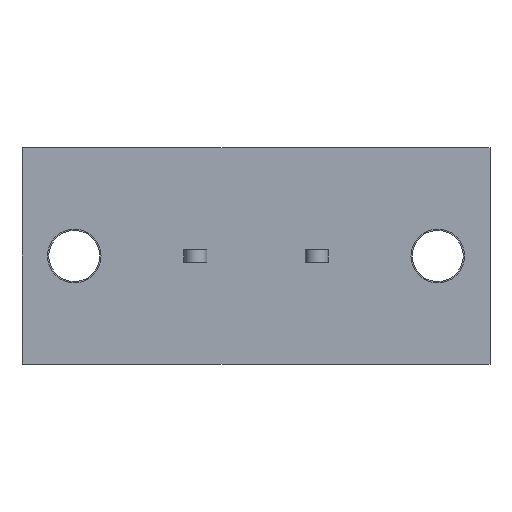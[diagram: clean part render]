
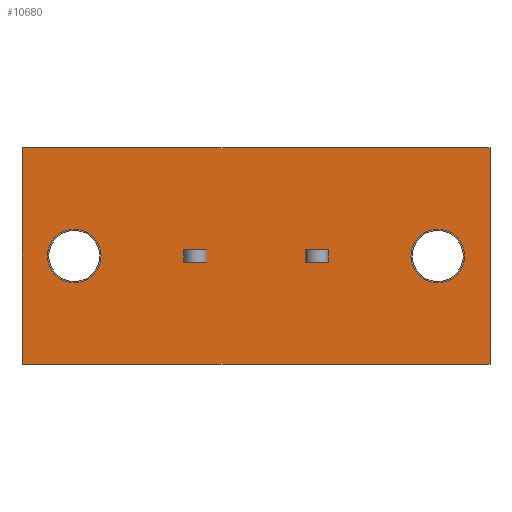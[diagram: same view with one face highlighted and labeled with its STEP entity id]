
A CAD part, front view. The second image highlights one B-rep face of the part: STEP entity #10680.
In plain terms, the highlighted planar face has unit normal (0, -1, 0).
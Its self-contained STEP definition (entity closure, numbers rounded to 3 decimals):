
#551=CIRCLE('',#11039,2.1);
#617=CIRCLE('',#11352,2.1);
#678=VERTEX_POINT('',#13727);
#679=VERTEX_POINT('',#13728);
#682=VERTEX_POINT('',#13736);
#694=VERTEX_POINT('',#13774);
#786=VERTEX_POINT('',#14044);
#1117=VERTEX_POINT('',#15516);
#1118=VERTEX_POINT('',#15518);
#1162=VERTEX_POINT('',#15706);
#1163=VERTEX_POINT('',#15707);
#1166=VERTEX_POINT('',#15715);
#1194=VERTEX_POINT('',#15786);
#1274=VERTEX_POINT('',#16081);
#1281=VERTEX_POINT('',#16097);
#1282=VERTEX_POINT('',#16099);
#1754=VECTOR('',#11618,1.);
#1757=VECTOR('',#11624,1.);
#1769=VECTOR('',#11660,1.);
#1771=VECTOR('',#11663,1.);
#2262=VECTOR('',#12394,1.);
#2299=VECTOR('',#12542,1.);
#2302=VECTOR('',#12548,1.);
#2328=VECTOR('',#12603,1.);
#2330=VECTOR('',#12606,1.);
#2407=VECTOR('',#12834,1.);
#2415=VECTOR('',#12845,1.);
#2416=VECTOR('',#12846,1.);
#2964=LINE('',#13726,#1754);
#2967=LINE('',#13735,#1757);
#2979=LINE('',#13773,#1769);
#2981=LINE('',#13777,#1771);
#3472=LINE('',#15517,#2262);
#3509=LINE('',#15705,#2299);
#3512=LINE('',#15714,#2302);
#3538=LINE('',#15785,#2328);
#3540=LINE('',#15789,#2330);
#3617=LINE('',#16080,#2407);
#3625=LINE('',#16098,#2415);
#3626=LINE('',#16100,#2416);
#4176=EDGE_CURVE('',#678,#679,#2964,.T.);
#4180=EDGE_CURVE('',#679,#682,#2967,.T.);
#4199=EDGE_CURVE('',#694,#678,#2979,.T.);
#4201=EDGE_CURVE('',#682,#694,#2981,.T.);
#4333=EDGE_CURVE('',#786,#786,#551,.T.);
#4827=EDGE_CURVE('',#1117,#1118,#3472,.T.);
#4901=EDGE_CURVE('',#1162,#1163,#3509,.T.);
#4905=EDGE_CURVE('',#1163,#1166,#3512,.T.);
#4940=EDGE_CURVE('',#1194,#1162,#3538,.T.);
#4942=EDGE_CURVE('',#1166,#1194,#3540,.T.);
#5068=EDGE_CURVE('',#1274,#1118,#3617,.T.);
#5076=EDGE_CURVE('',#1281,#1281,#617,.T.);
#5077=EDGE_CURVE('',#1282,#1117,#3625,.T.);
#5078=EDGE_CURVE('',#1274,#1282,#3626,.T.);
#7549=ORIENTED_EDGE('',*,*,#4176,.T.);
#7550=ORIENTED_EDGE('',*,*,#4180,.T.);
#7551=ORIENTED_EDGE('',*,*,#4201,.T.);
#7552=ORIENTED_EDGE('',*,*,#4199,.T.);
#7553=ORIENTED_EDGE('',*,*,#4333,.T.);
#7554=ORIENTED_EDGE('',*,*,#5076,.T.);
#7555=ORIENTED_EDGE('',*,*,#4901,.T.);
#7556=ORIENTED_EDGE('',*,*,#4905,.T.);
#7557=ORIENTED_EDGE('',*,*,#4942,.T.);
#7558=ORIENTED_EDGE('',*,*,#4940,.T.);
#7559=ORIENTED_EDGE('',*,*,#5068,.T.);
#7560=ORIENTED_EDGE('',*,*,#4827,.F.);
#7561=ORIENTED_EDGE('',*,*,#5077,.F.);
#7562=ORIENTED_EDGE('',*,*,#5078,.F.);
#9360=EDGE_LOOP('',(#7549,#7550,#7551,#7552));
#9361=EDGE_LOOP('',(#7553));
#9362=EDGE_LOOP('',(#7554));
#9363=EDGE_LOOP('',(#7555,#7556,#7557,#7558));
#9364=EDGE_LOOP('',(#7559,#7560,#7561,#7562));
#10040=FACE_BOUND('',#9360,.T.);
#10041=FACE_BOUND('',#9361,.T.);
#10042=FACE_BOUND('',#9362,.T.);
#10043=FACE_BOUND('',#9363,.T.);
#10044=FACE_BOUND('',#9364,.T.);
#10680=ADVANCED_FACE('',(#10040,#10041,#10042,#10043,#10044),#18197,.T.);
#11039=AXIS2_PLACEMENT_3D('',#14043,#11874,#11875);
#11351=AXIS2_PLACEMENT_3D('',#16095,#12842,$);
#11352=AXIS2_PLACEMENT_3D('',#16096,#12843,#12844);
#11618=DIRECTION('',(1.,0.,0.));
#11624=DIRECTION('',(0.,0.,-1.));
#11660=DIRECTION('',(0.,0.,1.));
#11663=DIRECTION('',(-1.,0.,0.));
#11874=DIRECTION('',(0.,1.,0.));
#11875=DIRECTION('',(-2.1,0.,0.));
#12394=DIRECTION('',(0.,0.,-1.));
#12542=DIRECTION('',(1.,0.,0.));
#12548=DIRECTION('',(0.,0.,-1.));
#12603=DIRECTION('',(0.,0.,1.));
#12606=DIRECTION('',(-1.,0.,0.));
#12834=DIRECTION('',(1.,0.,0.));
#12842=DIRECTION('',(0.,-1.,0.));
#12843=DIRECTION('',(0.,1.,0.));
#12844=DIRECTION('',(2.1,0.,0.));
#12845=DIRECTION('',(1.,0.,0.));
#12846=DIRECTION('',(0.,0.,1.));
#13726=CARTESIAN_POINT('',(7.475,0.,0.5));
#13727=CARTESIAN_POINT('',(4.55,0.,0.5));
#13728=CARTESIAN_POINT('',(6.35,0.,0.5));
#13735=CARTESIAN_POINT('',(6.35,0.,1.75));
#13736=CARTESIAN_POINT('',(6.35,0.,-0.5));
#13773=CARTESIAN_POINT('',(4.55,0.,1.75));
#13774=CARTESIAN_POINT('',(4.55,0.,-0.5));
#13777=CARTESIAN_POINT('',(7.475,0.,-0.5));
#14043=CARTESIAN_POINT('',(24.45,0.,0.));
#14044=CARTESIAN_POINT('',(26.55,0.,0.));
#15516=CARTESIAN_POINT('',(28.55,0.,8.5));
#15517=CARTESIAN_POINT('',(28.55,0.,8.5));
#15518=CARTESIAN_POINT('',(28.55,0.,-8.5));
#15705=CARTESIAN_POINT('',(12.225,0.,0.5));
#15706=CARTESIAN_POINT('',(14.05,0.,0.5));
#15707=CARTESIAN_POINT('',(15.85,0.,0.5));
#15714=CARTESIAN_POINT('',(15.85,0.,1.75));
#15715=CARTESIAN_POINT('',(15.85,0.,-0.5));
#15785=CARTESIAN_POINT('',(14.05,0.,1.75));
#15786=CARTESIAN_POINT('',(14.05,0.,-0.5));
#15789=CARTESIAN_POINT('',(12.225,0.,-0.5));
#16080=CARTESIAN_POINT('',(-8.15,0.,-8.5));
#16081=CARTESIAN_POINT('',(-8.15,0.,-8.5));
#16095=CARTESIAN_POINT('',(9.5,0.,0.));
#16096=CARTESIAN_POINT('',(-4.05,0.,0.));
#16097=CARTESIAN_POINT('',(-6.15,0.,0.));
#16098=CARTESIAN_POINT('',(-8.15,0.,8.5));
#16099=CARTESIAN_POINT('',(-8.15,0.,8.5));
#16100=CARTESIAN_POINT('',(-8.15,0.,-8.5));
#18197=PLANE('',#11351);
